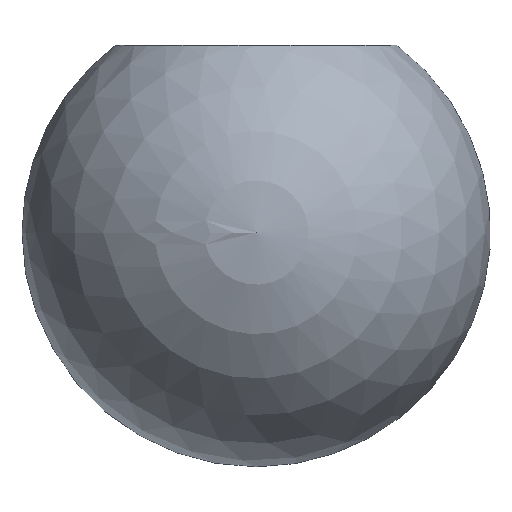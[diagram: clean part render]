
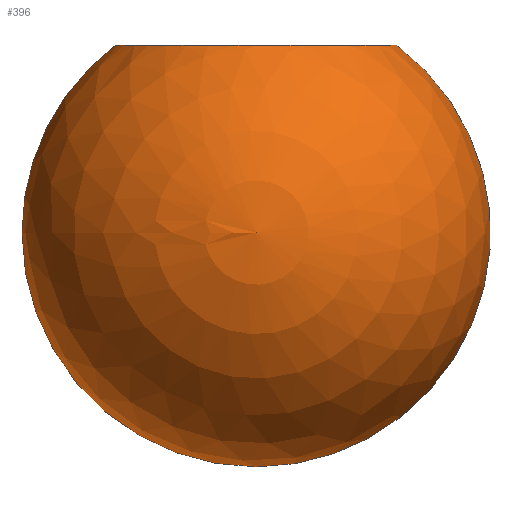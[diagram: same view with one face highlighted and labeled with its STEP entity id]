
A CAD part, left-side view. The second image highlights one B-rep face of the part: STEP entity #396.
In plain terms, the highlighted spherical face has radius 12.5 mm.
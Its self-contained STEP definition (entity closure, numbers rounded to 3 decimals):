
#20 = DIRECTION ( 'NONE',  ( -1., 0., 0. ) ) ;
#24 = CARTESIAN_POINT ( 'NONE',  ( 0., 0., -22.5 ) ) ;
#68 = DIRECTION ( 'NONE',  ( -1., 0., 0. ) ) ;
#87 = EDGE_CURVE ( 'NONE', #158, #215, #392, .T. ) ;
#104 = CARTESIAN_POINT ( 'NONE',  ( 0., 0., -10. ) ) ;
#105 = AXIS2_PLACEMENT_3D ( 'NONE', #265, #20, #427 ) ;
#116 = CARTESIAN_POINT ( 'NONE',  ( 0., -7.5, 0. ) ) ;
#122 = ORIENTED_EDGE ( 'NONE', *, *, #87, .F. ) ;
#152 = DIRECTION ( 'NONE',  ( 1., 0., 0. ) ) ;
#154 = VERTEX_POINT ( 'NONE', #24 ) ;
#158 = VERTEX_POINT ( 'NONE', #224 ) ;
#165 = EDGE_LOOP ( 'NONE', ( #264, #293, #122 ) ) ;
#196 = AXIS2_PLACEMENT_3D ( 'NONE', #308, #390, #468 ) ;
#203 = EDGE_CURVE ( 'NONE', #154, #158, #258, .T. ) ;
#215 = VERTEX_POINT ( 'NONE', #116 ) ;
#224 = CARTESIAN_POINT ( 'NONE',  ( 0., 7.5, 0. ) ) ;
#228 = FACE_OUTER_BOUND ( 'NONE', #165, .T. ) ;
#234 = AXIS2_PLACEMENT_3D ( 'NONE', #104, #68, #272 ) ;
#258 = CIRCLE ( 'NONE', #270, 12.5 ) ;
#264 = ORIENTED_EDGE ( 'NONE', *, *, #203, .F. ) ;
#265 = CARTESIAN_POINT ( 'NONE',  ( 0., 0., -10. ) ) ;
#270 = AXIS2_PLACEMENT_3D ( 'NONE', #521, #152, #492 ) ;
#272 = DIRECTION ( 'NONE',  ( 0., 1., 0. ) ) ;
#293 = ORIENTED_EDGE ( 'NONE', *, *, #365, .T. ) ;
#308 = CARTESIAN_POINT ( 'NONE',  ( 0., 0., 0. ) ) ;
#365 = EDGE_CURVE ( 'NONE', #154, #215, #438, .T. ) ;
#390 = DIRECTION ( 'NONE',  ( 0., 0., 1. ) ) ;
#392 = CIRCLE ( 'NONE', #196, 7.5 ) ;
#396 = ADVANCED_FACE ( 'NONE', ( #228 ), #467, .T. ) ;
#427 = DIRECTION ( 'NONE',  ( 0., -1., 0. ) ) ;
#438 = CIRCLE ( 'NONE', #105, 12.5 ) ;
#467 = SPHERICAL_SURFACE ( 'NONE', #234, 12.5 ) ;
#468 = DIRECTION ( 'NONE',  ( 1., 0., 0. ) ) ;
#492 = DIRECTION ( 'NONE',  ( 0., 0., -1. ) ) ;
#521 = CARTESIAN_POINT ( 'NONE',  ( 0., 0., -10. ) ) ;
